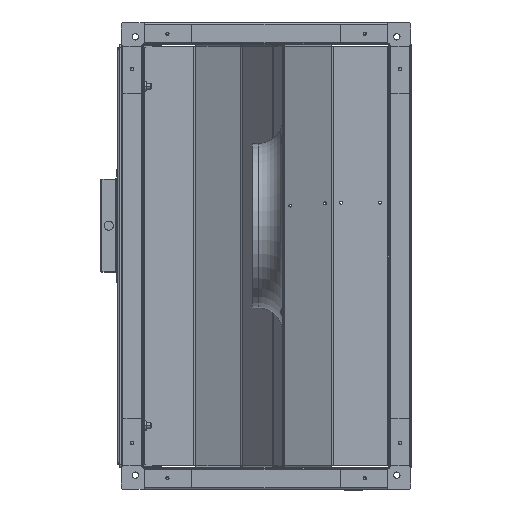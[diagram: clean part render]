
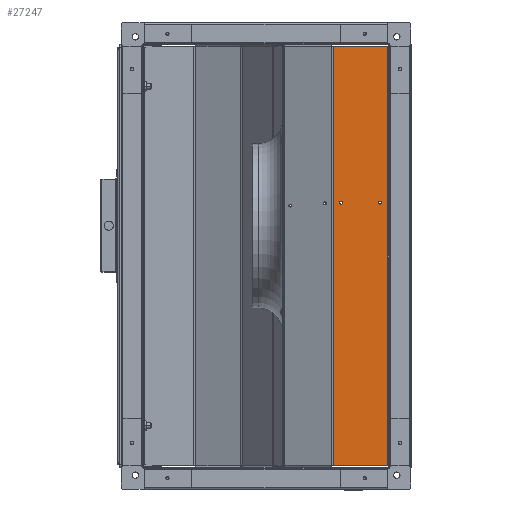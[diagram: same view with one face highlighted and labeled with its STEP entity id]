
A CAD part, left-side view. The second image highlights one B-rep face of the part: STEP entity #27247.
In plain terms, the highlighted planar face has unit normal (-1, 0, 0).
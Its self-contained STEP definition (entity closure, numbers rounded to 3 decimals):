
#18077 = ORIENTED_EDGE ( 'NONE', *, *, #129804, .T. ) ;
#18517 = ORIENTED_EDGE ( 'NONE', *, *, #129806, .F. ) ;
#18519 = ORIENTED_EDGE ( 'NONE', *, *, #129863, .F. ) ;
#18531 = ORIENTED_EDGE ( 'NONE', *, *, #129807, .F. ) ;
#18539 = ORIENTED_EDGE ( 'NONE', *, *, #129805, .T. ) ;
#18901 = ORIENTED_EDGE ( 'NONE', *, *, #129855, .F. ) ;
#18915 = ORIENTED_EDGE ( 'NONE', *, *, #129819, .T. ) ;
#18925 = ORIENTED_EDGE ( 'NONE', *, *, #129797, .T. ) ;
#26676 = AXIS2_PLACEMENT_3D ( 'NONE', #94784, #94787, #94790 ) ;
#26680 = AXIS2_PLACEMENT_3D ( 'NONE', #94797, #94799, #94802 ) ;
#26716 = AXIS2_PLACEMENT_3D ( 'NONE', #95282, #95284, #95287 ) ;
#26719 = AXIS2_PLACEMENT_3D ( 'NONE', #95363, #95366, #95368 ) ;
#27247 = ADVANCED_FACE ( 'NONE', ( #49091, #49102, #49095 ), #70965, .T. ) ;
#32017 = EDGE_LOOP ( 'NONE', ( #18517, #18519 ) ) ;
#32041 = EDGE_LOOP ( 'NONE', ( #18925, #18915, #18539, #18077 ) ) ;
#32310 = EDGE_LOOP ( 'NONE', ( #18531, #18901 ) ) ;
#39973 = CARTESIAN_POINT ( 'NONE',  ( -293.5, 11.7, 75.428 ) ) ;
#40023 = CARTESIAN_POINT ( 'NONE',  ( -293.5, 79.859, 296.7 ) ) ;
#49091 = FACE_BOUND ( 'NONE', #32017, .T. ) ;
#49095 = FACE_OUTER_BOUND ( 'NONE', #32041, .T. ) ;
#49102 = FACE_BOUND ( 'NONE', #32310, .T. ) ;
#70963 = CARTESIAN_POINT ( 'NONE',  ( -293.5, 1., 299. ) ) ;
#70965 = PLANE ( 'NONE',  #75034 ) ;
#70968 = DIRECTION ( 'NONE',  ( -1., 0., 0. ) ) ;
#70970 = DIRECTION ( 'NONE',  ( 0., -1., 0. ) ) ;
#75034 = AXIS2_PLACEMENT_3D ( 'NONE', #70963, #70968, #70970 ) ;
#89901 = VERTEX_POINT ( 'NONE', #133082 ) ;
#89922 = VERTEX_POINT ( 'NONE', #133129 ) ;
#89964 = VERTEX_POINT ( 'NONE', #133230 ) ;
#89991 = VERTEX_POINT ( 'NONE', #133295 ) ;
#91036 = LINE ( 'NONE', #94708, #91039 ) ;
#91039 = VECTOR ( 'NONE', #94711, 1000. ) ;
#91046 = LINE ( 'NONE', #94757, #91049 ) ;
#91048 = LINE ( 'NONE', #94769, #91051 ) ;
#91049 = VECTOR ( 'NONE', #94742, 1000. ) ;
#91050 = CIRCLE ( 'NONE', #26676, 2.1 ) ;
#91051 = VECTOR ( 'NONE', #94774, 1000. ) ;
#91052 = CIRCLE ( 'NONE', #26680, 2.1 ) ;
#91065 = LINE ( 'NONE', #94936, #91067 ) ;
#91067 = VECTOR ( 'NONE', #94923, 1000. ) ;
#91125 = CIRCLE ( 'NONE', #26716, 2.1 ) ;
#91138 = CIRCLE ( 'NONE', #26719, 2.1 ) ;
#92486 = VERTEX_POINT ( 'NONE', #134583 ) ;
#92497 = VERTEX_POINT ( 'NONE', #134609 ) ;
#94708 = CARTESIAN_POINT ( 'NONE',  ( -293.5, 80.289, -296.7 ) ) ;
#94711 = DIRECTION ( 'NONE',  ( 0., -1., 0. ) ) ;
#94742 = DIRECTION ( 'NONE',  ( 0., 0., -1. ) ) ;
#94757 = CARTESIAN_POINT ( 'NONE',  ( -293.5, 79.859, 299. ) ) ;
#94769 = CARTESIAN_POINT ( 'NONE',  ( -293.5, 2.707, 296.7 ) ) ;
#94774 = DIRECTION ( 'NONE',  ( 0., 1., 0. ) ) ;
#94784 = CARTESIAN_POINT ( 'NONE',  ( -293.5, 13.8, 75.428 ) ) ;
#94787 = DIRECTION ( 'NONE',  ( -1., 0., 0. ) ) ;
#94790 = DIRECTION ( 'NONE',  ( 0., -1., 0. ) ) ;
#94797 = CARTESIAN_POINT ( 'NONE',  ( -293.5, 68.8, 75.428 ) ) ;
#94799 = DIRECTION ( 'NONE',  ( -1., 0., 0. ) ) ;
#94802 = DIRECTION ( 'NONE',  ( 0., -1., 0. ) ) ;
#94923 = DIRECTION ( 'NONE',  ( 0., 0., 1. ) ) ;
#94936 = CARTESIAN_POINT ( 'NONE',  ( -293.5, 3.3, -297.293 ) ) ;
#95171 = VERTEX_POINT ( 'NONE', #39973 ) ;
#95254 = VERTEX_POINT ( 'NONE', #40023 ) ;
#95282 = CARTESIAN_POINT ( 'NONE',  ( -293.5, 68.8, 75.428 ) ) ;
#95284 = DIRECTION ( 'NONE',  ( -1., 0., 0. ) ) ;
#95287 = DIRECTION ( 'NONE',  ( 0., -1., 0. ) ) ;
#95363 = CARTESIAN_POINT ( 'NONE',  ( -293.5, 13.8, 75.428 ) ) ;
#95366 = DIRECTION ( 'NONE',  ( -1., 0., 0. ) ) ;
#95368 = DIRECTION ( 'NONE',  ( 0., -1., 0. ) ) ;
#129797 = EDGE_CURVE ( 'NONE', #92497, #89964, #91036, .T. ) ;
#129804 = EDGE_CURVE ( 'NONE', #95254, #92497, #91046, .T. ) ;
#129805 = EDGE_CURVE ( 'NONE', #92486, #95254, #91048, .T. ) ;
#129806 = EDGE_CURVE ( 'NONE', #95171, #89901, #91050, .T. ) ;
#129807 = EDGE_CURVE ( 'NONE', #89991, #89922, #91052, .T. ) ;
#129819 = EDGE_CURVE ( 'NONE', #89964, #92486, #91065, .T. ) ;
#129855 = EDGE_CURVE ( 'NONE', #89922, #89991, #91125, .T. ) ;
#129863 = EDGE_CURVE ( 'NONE', #89901, #95171, #91138, .T. ) ;
#133082 = CARTESIAN_POINT ( 'NONE',  ( -293.5, 15.9, 75.428 ) ) ;
#133129 = CARTESIAN_POINT ( 'NONE',  ( -293.5, 70.9, 75.428 ) ) ;
#133230 = CARTESIAN_POINT ( 'NONE',  ( -293.5, 3.3, -296.7 ) ) ;
#133295 = CARTESIAN_POINT ( 'NONE',  ( -293.5, 66.7, 75.428 ) ) ;
#134583 = CARTESIAN_POINT ( 'NONE',  ( -293.5, 3.3, 296.7 ) ) ;
#134609 = CARTESIAN_POINT ( 'NONE',  ( -293.5, 79.859, -296.7 ) ) ;
